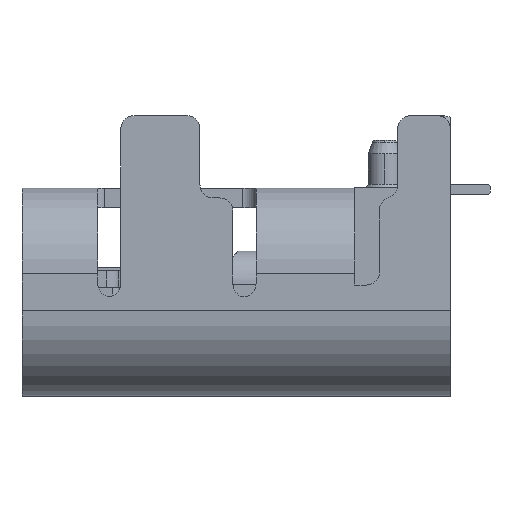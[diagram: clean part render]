
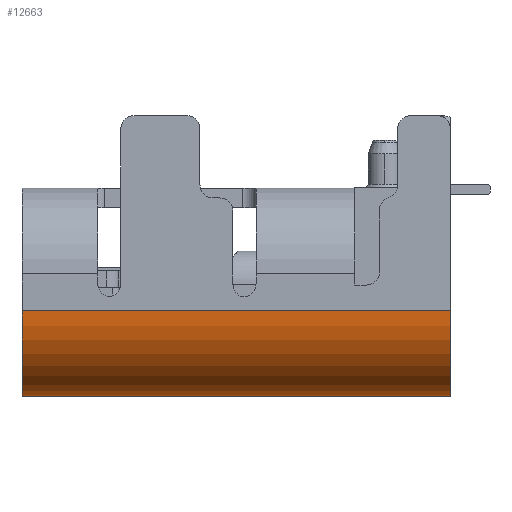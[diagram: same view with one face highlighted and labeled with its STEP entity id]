
A CAD part, front view. The second image highlights one B-rep face of the part: STEP entity #12663.
In plain terms, the highlighted cylindrical face has radius 1.3 mm (diameter 2.6 mm), a partial arc.
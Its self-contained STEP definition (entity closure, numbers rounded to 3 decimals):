
#1136 = LINE ( 'NONE', #16221, #6810 ) ;
#1268 = CARTESIAN_POINT ( 'NONE',  ( -4.47, 0.28, -1.5 ) ) ;
#1297 = CARTESIAN_POINT ( 'NONE',  ( -4.47, 0.28, -1.5 ) ) ;
#1365 = AXIS2_PLACEMENT_3D ( 'NONE', #8294, #27493, #18889 ) ;
#1444 = LINE ( 'NONE', #1297, #17598 ) ;
#2375 = CARTESIAN_POINT ( 'NONE',  ( -4.47, 0.28, 5. ) ) ;
#3778 = DIRECTION ( 'NONE',  ( 1., 0., 0. ) ) ;
#4187 = VERTEX_POINT ( 'NONE', #11149 ) ;
#4664 = VERTEX_POINT ( 'NONE', #2375 ) ;
#5943 = EDGE_CURVE ( 'NONE', #12150, #4187, #1136, .T. ) ;
#6029 = CARTESIAN_POINT ( 'NONE',  ( -3.17, 0.28, -1.5 ) ) ;
#6336 = DIRECTION ( 'NONE',  ( 0., 0., -1. ) ) ;
#6810 = VECTOR ( 'NONE', #26815, 1000. ) ;
#8181 = CARTESIAN_POINT ( 'NONE',  ( -3.17, 0.28, 5. ) ) ;
#8294 = CARTESIAN_POINT ( 'NONE',  ( -3.17, 0.28, -1.5 ) ) ;
#9728 = ORIENTED_EDGE ( 'NONE', *, *, #15548, .T. ) ;
#10038 = DIRECTION ( 'NONE',  ( 0., 0., 1. ) ) ;
#10121 = EDGE_LOOP ( 'NONE', ( #9728, #13883, #26543, #27662 ) ) ;
#10134 = CYLINDRICAL_SURFACE ( 'NONE', #14328, 1.3 ) ;
#10763 = CIRCLE ( 'NONE', #26545, 1.3 ) ;
#11010 = EDGE_CURVE ( 'NONE', #4664, #4187, #10763, .T. ) ;
#11149 = CARTESIAN_POINT ( 'NONE',  ( -3.17, 1.58, 5. ) ) ;
#12150 = VERTEX_POINT ( 'NONE', #22753 ) ;
#12410 = DIRECTION ( 'NONE',  ( 1., 0., 0. ) ) ;
#12663 = ADVANCED_FACE ( 'NONE', ( #21569 ), #10134, .T. ) ;
#13883 = ORIENTED_EDGE ( 'NONE', *, *, #11010, .T. ) ;
#14328 = AXIS2_PLACEMENT_3D ( 'NONE', #6029, #16632, #3778 ) ;
#14839 = EDGE_CURVE ( 'NONE', #12150, #16032, #26609, .T. ) ;
#15548 = EDGE_CURVE ( 'NONE', #16032, #4664, #1444, .T. ) ;
#16032 = VERTEX_POINT ( 'NONE', #1268 ) ;
#16221 = CARTESIAN_POINT ( 'NONE',  ( -3.17, 1.58, -1.8 ) ) ;
#16632 = DIRECTION ( 'NONE',  ( 0., 0., 1. ) ) ;
#17598 = VECTOR ( 'NONE', #10038, 1000. ) ;
#18889 = DIRECTION ( 'NONE',  ( 1., 0., 0. ) ) ;
#21569 = FACE_OUTER_BOUND ( 'NONE', #10121, .T. ) ;
#22753 = CARTESIAN_POINT ( 'NONE',  ( -3.17, 1.58, -1.5 ) ) ;
#26543 = ORIENTED_EDGE ( 'NONE', *, *, #5943, .F. ) ;
#26545 = AXIS2_PLACEMENT_3D ( 'NONE', #8181, #6336, #12410 ) ;
#26609 = CIRCLE ( 'NONE', #1365, 1.3 ) ;
#26815 = DIRECTION ( 'NONE',  ( 0., 0., 1. ) ) ;
#27493 = DIRECTION ( 'NONE',  ( 0., 0., 1. ) ) ;
#27662 = ORIENTED_EDGE ( 'NONE', *, *, #14839, .T. ) ;
